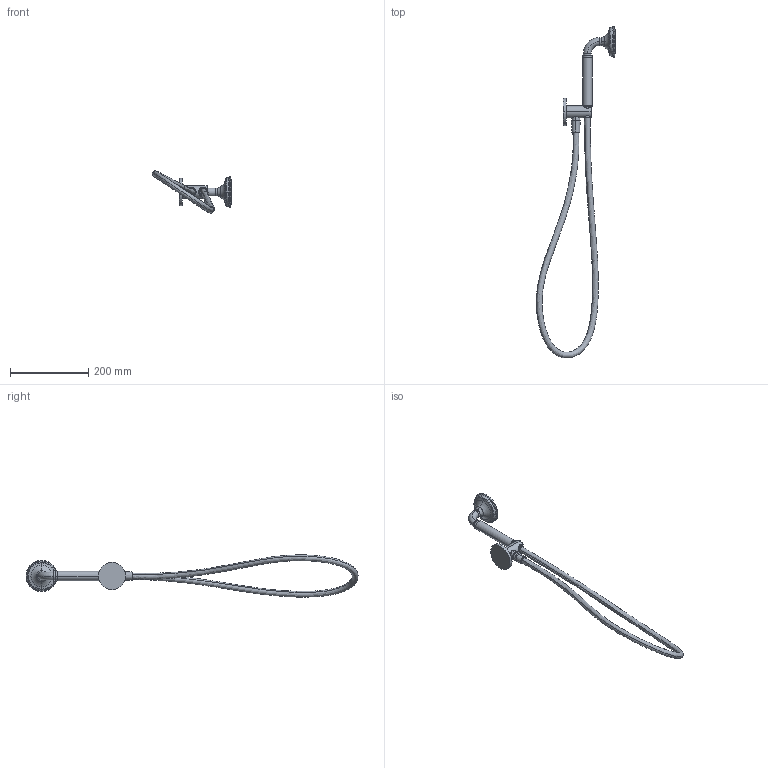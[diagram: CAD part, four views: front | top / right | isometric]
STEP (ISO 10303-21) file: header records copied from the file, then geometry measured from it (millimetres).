
FILE_DESCRIPTION((''),'2;1');
FILE_NAME('DIS_3D_J544','2025-10-09T13:47:21',('Luca'),(''),'CREO PARAMETRIC BY PTC INC, 2025010','CREO PARAMETRIC BY PTC INC, 2025010','');
FILE_SCHEMA(('AUTOMOTIVE_DESIGN { 1 0 10303 214 1 1 1 1 }'));
Products named in the file (1): DIS_3D_J544
Bounding box: 202.8 x 850.06 x 108.27 mm (x, y, z)
Volume: 465481.9 mm3; surface area: 113697.6 mm2
Topology: 1 solids, 1 shells, 970 faces, 3086 edges, 2291 vertices
Faces by surface type: cone 403, plane 206, cylinder 174, torus 144, bspline 40, extrusion 3
Entity records: 59007 total; most frequent: CARTESIAN_POINT 25467, ORIENTED_EDGE 6168, DIRECTION 5483, EDGE_CURVE 3084, AXIS2_PLACEMENT_3D 2436, VERTEX_POINT 2291, CIRCLE 1502, EDGE_LOOP 1147
